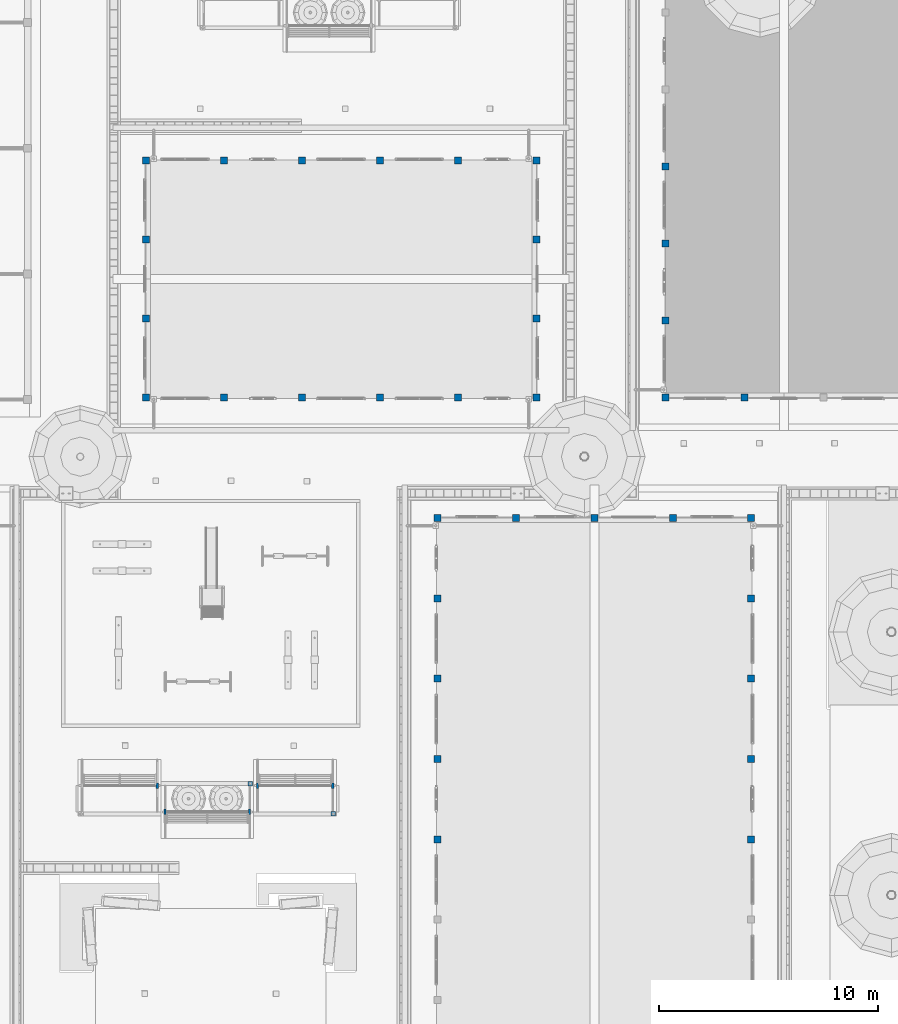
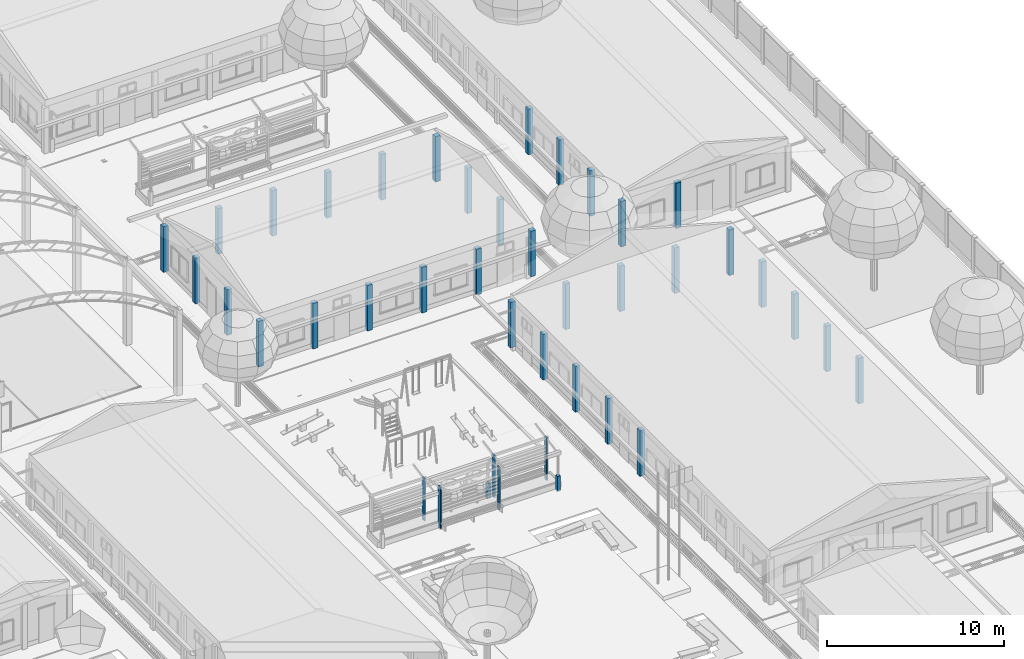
# One storey, part 8 of 166: 48 columns.
"""IFC2X3 building model written with IfcOpenShell, lengths in metres."""

from ifc_helpers import new_model, si_unit, origin, origin_with_axes, place, context, subcontext, project, spatial, faceted_brep, element, save


model = new_model("IFC2X3")

# Units and contexts
model_context = context("Model", 3, precision=1e-05, world=origin_with_axes())
body_context = subcontext(model_context, "Body", "Model", "MODEL_VIEW")
ifc_project = project(units=[si_unit("LENGTHUNIT", "METRE"), si_unit("AREAUNIT", "SQUARE_METRE"), si_unit("VOLUMEUNIT", "CUBIC_METRE"), si_unit("PLANEANGLEUNIT", "RADIAN")], contexts=[model_context])

# Site, building, storey
site_placement = place(None, origin_with_axes())
site = spatial("IfcSite", under=ifc_project, at=site_placement, Name="Predio Los Mangos - Morales, San Martín", CompositionType="ELEMENT")
building_placement = place(site_placement, origin())
building = spatial("IfcBuilding", under=site, at=building_placement, Name="Hogar de Refugio Temporal", CompositionType="ELEMENT")
storey_placement = place(building_placement, origin())
storey = spatial("IfcBuildingStorey", under=building, at=storey_placement, Name="NIVEL 1 (NPT +0.00)", CompositionType="ELEMENT", Elevation=0.0)

# Columns
column_1_placement = place(storey_placement, origin())
element("IfcColumn", 1, at=column_1_placement, inside=storey, Name="E-05_col", ObjectType="Columna", context=body_context, shape_type="Brep", body=[
    faceted_brep([(45.14, 87.04, 0.15), (45.14, 87.36, 0.15), (45.46, 87.36, 0.15), (45.46, 87.04, 0.15), (45.14, 87.04, 3.3), (45.46, 87.04, 3.3), (45.46, 87.36, 3.3), (45.14, 87.36, 3.3)], [[[0, 1, 2, 3]], [[4, 5, 6, 7]], [[0, 3, 5, 4]], [[3, 2, 6, 5]], [[2, 1, 7, 6]], [[1, 0, 4, 7]]]),
])
column_2_placement = place(storey_placement, origin())
element("IfcColumn", 2, at=column_2_placement, inside=storey, Name="E-05_col", ObjectType="Columna", context=body_context, shape_type="Brep", body=[
    faceted_brep([(48.715, 87.04, 0.15), (48.715, 87.36, 0.15), (49.035, 87.36, 0.15), (49.035, 87.04, 0.15), (48.715, 87.04, 3.3), (49.035, 87.04, 3.3), (49.035, 87.36, 3.3), (48.715, 87.36, 3.3)], [[[0, 1, 2, 3]], [[4, 5, 6, 7]], [[0, 3, 5, 4]], [[3, 2, 6, 5]], [[2, 1, 7, 6]], [[1, 0, 4, 7]]]),
])
column_3_placement = place(storey_placement, origin())
element("IfcColumn", 3, at=column_3_placement, inside=storey, Name="E-05_col", ObjectType="Columna", context=body_context, shape_type="Brep", body=[
    faceted_brep([(52.29, 87.04, 0.15), (52.29, 87.36, 0.15), (52.61, 87.36, 0.15), (52.61, 87.04, 0.15), (52.29, 87.04, 3.3), (52.61, 87.04, 3.3), (52.61, 87.36, 3.3), (52.29, 87.36, 3.3)], [[[0, 1, 2, 3]], [[4, 5, 6, 7]], [[0, 3, 5, 4]], [[3, 2, 6, 5]], [[2, 1, 7, 6]], [[1, 0, 4, 7]]]),
])
column_4_placement = place(storey_placement, origin())
element("IfcColumn", 4, at=column_4_placement, inside=storey, Name="E-05_col", ObjectType="Columna", context=body_context, shape_type="Brep", body=[
    faceted_brep([(55.865, 87.04, 0.15), (55.865, 87.36, 0.15), (56.185, 87.36, 0.15), (56.185, 87.04, 0.15), (55.865, 87.04, 3.3), (56.185, 87.04, 3.3), (56.185, 87.36, 3.3), (55.865, 87.36, 3.3)], [[[0, 1, 2, 3]], [[4, 5, 6, 7]], [[0, 3, 5, 4]], [[3, 2, 6, 5]], [[2, 1, 7, 6]], [[1, 0, 4, 7]]]),
])
column_5_placement = place(storey_placement, origin())
element("IfcColumn", 5, at=column_5_placement, inside=storey, Name="E-05_col", ObjectType="Columna", context=body_context, shape_type="Brep", body=[
    faceted_brep([(59.44, 87.04, 0.15), (59.44, 87.36, 0.15), (59.76, 87.36, 0.15), (59.76, 87.04, 0.15), (59.44, 87.04, 3.3), (59.76, 87.04, 3.3), (59.76, 87.36, 3.3), (59.44, 87.36, 3.3)], [[[0, 1, 2, 3]], [[4, 5, 6, 7]], [[0, 3, 5, 4]], [[3, 2, 6, 5]], [[2, 1, 7, 6]], [[1, 0, 4, 7]]]),
])
column_6_placement = place(storey_placement, origin())
element("IfcColumn", 6, at=column_6_placement, inside=storey, Name="E-05_col", ObjectType="Columna", context=body_context, shape_type="Brep", body=[
    faceted_brep([(45.14, 72.39, 0.15), (45.14, 72.71, 0.15), (45.46, 72.71, 0.15), (45.46, 72.39, 0.15), (45.14, 72.39, 3.3), (45.46, 72.39, 3.3), (45.46, 72.71, 3.3), (45.14, 72.71, 3.3)], [[[0, 1, 2, 3]], [[4, 5, 6, 7]], [[0, 3, 5, 4]], [[3, 2, 6, 5]], [[2, 1, 7, 6]], [[1, 0, 4, 7]]]),
])
column_7_placement = place(storey_placement, origin())
element("IfcColumn", 7, at=column_7_placement, inside=storey, Name="E-05_col", ObjectType="Columna", context=body_context, shape_type="Brep", body=[
    faceted_brep([(45.14, 76.0525, 0.15), (45.14, 76.3725, 0.15), (45.46, 76.3725, 0.15), (45.46, 76.0525, 0.15), (45.14, 76.0525, 3.3), (45.46, 76.0525, 3.3), (45.46, 76.3725, 3.3), (45.14, 76.3725, 3.3)], [[[0, 1, 2, 3]], [[4, 5, 6, 7]], [[0, 3, 5, 4]], [[3, 2, 6, 5]], [[2, 1, 7, 6]], [[1, 0, 4, 7]]]),
])
column_8_placement = place(storey_placement, origin())
element("IfcColumn", 8, at=column_8_placement, inside=storey, Name="E-05_col", ObjectType="Columna", context=body_context, shape_type="Brep", body=[
    faceted_brep([(45.14, 79.715, 0.15), (45.14, 80.035, 0.15), (45.46, 80.035, 0.15), (45.46, 79.715, 0.15), (45.14, 79.715, 3.3), (45.46, 79.715, 3.3), (45.46, 80.035, 3.3), (45.14, 80.035, 3.3)], [[[0, 1, 2, 3]], [[4, 5, 6, 7]], [[0, 3, 5, 4]], [[3, 2, 6, 5]], [[2, 1, 7, 6]], [[1, 0, 4, 7]]]),
])
column_9_placement = place(storey_placement, origin())
element("IfcColumn", 9, at=column_9_placement, inside=storey, Name="E-05_col", ObjectType="Columna", context=body_context, shape_type="Brep", body=[
    faceted_brep([(45.14, 83.3775, 0.15), (45.14, 83.6975, 0.15), (45.46, 83.6975, 0.15), (45.46, 83.3775, 0.15), (45.14, 83.3775, 3.3), (45.46, 83.3775, 3.3), (45.46, 83.6975, 3.3), (45.14, 83.6975, 3.3)], [[[0, 1, 2, 3]], [[4, 5, 6, 7]], [[0, 3, 5, 4]], [[3, 2, 6, 5]], [[2, 1, 7, 6]], [[1, 0, 4, 7]]]),
])
column_10_placement = place(storey_placement, origin())
element("IfcColumn", 10, at=column_10_placement, inside=storey, Name="E-05_col", ObjectType="Columna", context=body_context, shape_type="Brep", body=[
    faceted_brep([(45.14, 87.04, 0.15), (45.14, 87.36, 0.15), (45.46, 87.36, 0.15), (45.46, 87.04, 0.15), (45.14, 87.04, 3.3), (45.46, 87.04, 3.3), (45.46, 87.36, 3.3), (45.14, 87.36, 3.3)], [[[0, 1, 2, 3]], [[4, 5, 6, 7]], [[0, 3, 5, 4]], [[3, 2, 6, 5]], [[2, 1, 7, 6]], [[1, 0, 4, 7]]]),
])
column_11_placement = place(storey_placement, origin())
element("IfcColumn", 11, at=column_11_placement, inside=storey, Name="E-05_col", ObjectType="Columna", context=body_context, shape_type="Brep", body=[
    faceted_brep([(59.44, 72.39, 0.15), (59.44, 72.71, 0.15), (59.76, 72.71, 0.15), (59.76, 72.39, 0.15), (59.44, 72.39, 3.3), (59.76, 72.39, 3.3), (59.76, 72.71, 3.3), (59.44, 72.71, 3.3)], [[[0, 1, 2, 3]], [[4, 5, 6, 7]], [[0, 3, 5, 4]], [[3, 2, 6, 5]], [[2, 1, 7, 6]], [[1, 0, 4, 7]]]),
])
column_12_placement = place(storey_placement, origin())
element("IfcColumn", 12, at=column_12_placement, inside=storey, Name="E-05_col", ObjectType="Columna", context=body_context, shape_type="Brep", body=[
    faceted_brep([(59.44, 76.0525, 0.15), (59.44, 76.3725, 0.15), (59.76, 76.3725, 0.15), (59.76, 76.0525, 0.15), (59.44, 76.0525, 3.3), (59.76, 76.0525, 3.3), (59.76, 76.3725, 3.3), (59.44, 76.3725, 3.3)], [[[0, 1, 2, 3]], [[4, 5, 6, 7]], [[0, 3, 5, 4]], [[3, 2, 6, 5]], [[2, 1, 7, 6]], [[1, 0, 4, 7]]]),
])
column_13_placement = place(storey_placement, origin())
element("IfcColumn", 13, at=column_13_placement, inside=storey, Name="E-05_col", ObjectType="Columna", context=body_context, shape_type="Brep", body=[
    faceted_brep([(59.44, 79.715, 0.15), (59.44, 80.035, 0.15), (59.76, 80.035, 0.15), (59.76, 79.715, 0.15), (59.44, 79.715, 3.3), (59.76, 79.715, 3.3), (59.76, 80.035, 3.3), (59.44, 80.035, 3.3)], [[[0, 1, 2, 3]], [[4, 5, 6, 7]], [[0, 3, 5, 4]], [[3, 2, 6, 5]], [[2, 1, 7, 6]], [[1, 0, 4, 7]]]),
])
column_14_placement = place(storey_placement, origin())
element("IfcColumn", 14, at=column_14_placement, inside=storey, Name="E-05_col", ObjectType="Columna", context=body_context, shape_type="Brep", body=[
    faceted_brep([(59.44, 83.3775, 0.15), (59.44, 83.6975, 0.15), (59.76, 83.6975, 0.15), (59.76, 83.3775, 0.15), (59.44, 83.3775, 3.3), (59.76, 83.3775, 3.3), (59.76, 83.6975, 3.3), (59.44, 83.6975, 3.3)], [[[0, 1, 2, 3]], [[4, 5, 6, 7]], [[0, 3, 5, 4]], [[3, 2, 6, 5]], [[2, 1, 7, 6]], [[1, 0, 4, 7]]]),
])
column_15_placement = place(storey_placement, origin())
element("IfcColumn", 15, at=column_15_placement, inside=storey, Name="E-05_col", ObjectType="Columna", context=body_context, shape_type="Brep", body=[
    faceted_brep([(59.44, 87.04, 0.15), (59.44, 87.36, 0.15), (59.76, 87.36, 0.15), (59.76, 87.04, 0.15), (59.44, 87.04, 3.3), (59.76, 87.04, 3.3), (59.76, 87.36, 3.3), (59.44, 87.36, 3.3)], [[[0, 1, 2, 3]], [[4, 5, 6, 7]], [[0, 3, 5, 4]], [[3, 2, 6, 5]], [[2, 1, 7, 6]], [[1, 0, 4, 7]]]),
])
column_16_placement = place(storey_placement, origin())
element("IfcColumn", 16, at=column_16_placement, inside=storey, Name="E-06_col", ObjectType="Columna", context=body_context, shape_type="Brep", body=[
    faceted_brep([(31.84, 92.54, 0.15), (31.84, 92.86, 0.15), (32.16, 92.86, 0.15), (32.16, 92.54, 0.15), (31.84, 92.54, 3.3), (32.16, 92.54, 3.3), (32.16, 92.86, 3.3), (31.84, 92.86, 3.3)], [[[0, 1, 2, 3]], [[4, 5, 6, 7]], [[0, 3, 5, 4]], [[3, 2, 6, 5]], [[2, 1, 7, 6]], [[1, 0, 4, 7]]]),
])
column_17_placement = place(storey_placement, origin())
element("IfcColumn", 17, at=column_17_placement, inside=storey, Name="E-06_col", ObjectType="Columna", context=body_context, shape_type="Brep", body=[
    faceted_brep([(35.4, 92.54, 0.15), (35.4, 92.86, 0.15), (35.72, 92.86, 0.15), (35.72, 92.54, 0.15), (35.4, 92.54, 3.3), (35.72, 92.54, 3.3), (35.72, 92.86, 3.3), (35.4, 92.86, 3.3)], [[[0, 1, 2, 3]], [[4, 5, 6, 7]], [[0, 3, 5, 4]], [[3, 2, 6, 5]], [[2, 1, 7, 6]], [[1, 0, 4, 7]]]),
])
column_18_placement = place(storey_placement, origin())
element("IfcColumn", 18, at=column_18_placement, inside=storey, Name="E-06_col", ObjectType="Columna", context=body_context, shape_type="Brep", body=[
    faceted_brep([(38.96, 92.54, 0.15), (38.96, 92.86, 0.15), (39.28, 92.86, 0.15), (39.28, 92.54, 0.15), (38.96, 92.54, 3.3), (39.28, 92.54, 3.3), (39.28, 92.86, 3.3), (38.96, 92.86, 3.3)], [[[0, 1, 2, 3]], [[4, 5, 6, 7]], [[0, 3, 5, 4]], [[3, 2, 6, 5]], [[2, 1, 7, 6]], [[1, 0, 4, 7]]]),
])
column_19_placement = place(storey_placement, origin())
element("IfcColumn", 19, at=column_19_placement, inside=storey, Name="E-06_col", ObjectType="Columna", context=body_context, shape_type="Brep", body=[
    faceted_brep([(42.52, 92.54, 0.15), (42.52, 92.86, 0.15), (42.84, 92.86, 0.15), (42.84, 92.54, 0.15), (42.52, 92.54, 3.3), (42.84, 92.54, 3.3), (42.84, 92.86, 3.3), (42.52, 92.86, 3.3)], [[[0, 1, 2, 3]], [[4, 5, 6, 7]], [[0, 3, 5, 4]], [[3, 2, 6, 5]], [[2, 1, 7, 6]], [[1, 0, 4, 7]]]),
])
column_20_placement = place(storey_placement, origin())
element("IfcColumn", 20, at=column_20_placement, inside=storey, Name="E-06_col", ObjectType="Columna", context=body_context, shape_type="Brep", body=[
    faceted_brep([(46.08, 92.54, 0.15), (46.08, 92.86, 0.15), (46.4, 92.86, 0.15), (46.4, 92.54, 0.15), (46.08, 92.54, 3.3), (46.4, 92.54, 3.3), (46.4, 92.86, 3.3), (46.08, 92.86, 3.3)], [[[0, 1, 2, 3]], [[4, 5, 6, 7]], [[0, 3, 5, 4]], [[3, 2, 6, 5]], [[2, 1, 7, 6]], [[1, 0, 4, 7]]]),
])
column_21_placement = place(storey_placement, origin())
element("IfcColumn", 21, at=column_21_placement, inside=storey, Name="E-06_col", ObjectType="Columna", context=body_context, shape_type="Brep", body=[
    faceted_brep([(49.64, 92.54, 0.15), (49.64, 92.86, 0.15), (49.96, 92.86, 0.15), (49.96, 92.54, 0.15), (49.64, 92.54, 3.3), (49.96, 92.54, 3.3), (49.96, 92.86, 3.3), (49.64, 92.86, 3.3)], [[[0, 1, 2, 3]], [[4, 5, 6, 7]], [[0, 3, 5, 4]], [[3, 2, 6, 5]], [[2, 1, 7, 6]], [[1, 0, 4, 7]]]),
])
column_22_placement = place(storey_placement, origin())
element("IfcColumn", 22, at=column_22_placement, inside=storey, Name="E-06_col", ObjectType="Columna", context=body_context, shape_type="Brep", body=[
    faceted_brep([(31.84, 103.34, 0.15), (31.84, 103.66, 0.15), (32.16, 103.66, 0.15), (32.16, 103.34, 0.15), (31.84, 103.34, 3.3), (32.16, 103.34, 3.3), (32.16, 103.66, 3.3), (31.84, 103.66, 3.3)], [[[0, 1, 2, 3]], [[4, 5, 6, 7]], [[0, 3, 5, 4]], [[3, 2, 6, 5]], [[2, 1, 7, 6]], [[1, 0, 4, 7]]]),
])
column_23_placement = place(storey_placement, origin())
element("IfcColumn", 23, at=column_23_placement, inside=storey, Name="E-06_col", ObjectType="Columna", context=body_context, shape_type="Brep", body=[
    faceted_brep([(35.4, 103.34, 0.15), (35.4, 103.66, 0.15), (35.72, 103.66, 0.15), (35.72, 103.34, 0.15), (35.4, 103.34, 3.3), (35.72, 103.34, 3.3), (35.72, 103.66, 3.3), (35.4, 103.66, 3.3)], [[[0, 1, 2, 3]], [[4, 5, 6, 7]], [[0, 3, 5, 4]], [[3, 2, 6, 5]], [[2, 1, 7, 6]], [[1, 0, 4, 7]]]),
])
column_24_placement = place(storey_placement, origin())
element("IfcColumn", 24, at=column_24_placement, inside=storey, Name="E-06_col", ObjectType="Columna", context=body_context, shape_type="Brep", body=[
    faceted_brep([(38.96, 103.34, 0.15), (38.96, 103.66, 0.15), (39.28, 103.66, 0.15), (39.28, 103.34, 0.15), (38.96, 103.34, 3.3), (39.28, 103.34, 3.3), (39.28, 103.66, 3.3), (38.96, 103.66, 3.3)], [[[0, 1, 2, 3]], [[4, 5, 6, 7]], [[0, 3, 5, 4]], [[3, 2, 6, 5]], [[2, 1, 7, 6]], [[1, 0, 4, 7]]]),
])
column_25_placement = place(storey_placement, origin())
element("IfcColumn", 25, at=column_25_placement, inside=storey, Name="E-06_col", ObjectType="Columna", context=body_context, shape_type="Brep", body=[
    faceted_brep([(42.52, 103.34, 0.15), (42.52, 103.66, 0.15), (42.84, 103.66, 0.15), (42.84, 103.34, 0.15), (42.52, 103.34, 3.3), (42.84, 103.34, 3.3), (42.84, 103.66, 3.3), (42.52, 103.66, 3.3)], [[[0, 1, 2, 3]], [[4, 5, 6, 7]], [[0, 3, 5, 4]], [[3, 2, 6, 5]], [[2, 1, 7, 6]], [[1, 0, 4, 7]]]),
])
column_26_placement = place(storey_placement, origin())
element("IfcColumn", 26, at=column_26_placement, inside=storey, Name="E-06_col", ObjectType="Columna", context=body_context, shape_type="Brep", body=[
    faceted_brep([(46.08, 103.34, 0.15), (46.08, 103.66, 0.15), (46.4, 103.66, 0.15), (46.4, 103.34, 0.15), (46.08, 103.34, 3.3), (46.4, 103.34, 3.3), (46.4, 103.66, 3.3), (46.08, 103.66, 3.3)], [[[0, 1, 2, 3]], [[4, 5, 6, 7]], [[0, 3, 5, 4]], [[3, 2, 6, 5]], [[2, 1, 7, 6]], [[1, 0, 4, 7]]]),
])
column_27_placement = place(storey_placement, origin())
element("IfcColumn", 27, at=column_27_placement, inside=storey, Name="E-06_col", ObjectType="Columna", context=body_context, shape_type="Brep", body=[
    faceted_brep([(49.64, 103.34, 0.15), (49.64, 103.66, 0.15), (49.96, 103.66, 0.15), (49.96, 103.34, 0.15), (49.64, 103.34, 3.3), (49.96, 103.34, 3.3), (49.96, 103.66, 3.3), (49.64, 103.66, 3.3)], [[[0, 1, 2, 3]], [[4, 5, 6, 7]], [[0, 3, 5, 4]], [[3, 2, 6, 5]], [[2, 1, 7, 6]], [[1, 0, 4, 7]]]),
])
column_28_placement = place(storey_placement, origin())
element("IfcColumn", 28, at=column_28_placement, inside=storey, Name="E-06_col", ObjectType="Columna", context=body_context, shape_type="Brep", body=[
    faceted_brep([(31.84, 92.54, 0.15), (31.84, 92.86, 0.15), (32.16, 92.86, 0.15), (32.16, 92.54, 0.15), (31.84, 92.54, 3.3), (32.16, 92.54, 3.3), (32.16, 92.86, 3.3), (31.84, 92.86, 3.3)], [[[0, 1, 2, 3]], [[4, 5, 6, 7]], [[0, 3, 5, 4]], [[3, 2, 6, 5]], [[2, 1, 7, 6]], [[1, 0, 4, 7]]]),
])
column_29_placement = place(storey_placement, origin())
element("IfcColumn", 29, at=column_29_placement, inside=storey, Name="E-06_col", ObjectType="Columna", context=body_context, shape_type="Brep", body=[
    faceted_brep([(31.84, 96.14, 0.15), (31.84, 96.46, 0.15), (32.16, 96.46, 0.15), (32.16, 96.14, 0.15), (31.84, 96.14, 3.3), (32.16, 96.14, 3.3), (32.16, 96.46, 3.3), (31.84, 96.46, 3.3)], [[[0, 1, 2, 3]], [[4, 5, 6, 7]], [[0, 3, 5, 4]], [[3, 2, 6, 5]], [[2, 1, 7, 6]], [[1, 0, 4, 7]]]),
])
column_30_placement = place(storey_placement, origin())
element("IfcColumn", 30, at=column_30_placement, inside=storey, Name="E-06_col", ObjectType="Columna", context=body_context, shape_type="Brep", body=[
    faceted_brep([(31.84, 99.74, 0.15), (31.84, 100.06, 0.15), (32.16, 100.06, 0.15), (32.16, 99.74, 0.15), (31.84, 99.74, 3.3), (32.16, 99.74, 3.3), (32.16, 100.06, 3.3), (31.84, 100.06, 3.3)], [[[0, 1, 2, 3]], [[4, 5, 6, 7]], [[0, 3, 5, 4]], [[3, 2, 6, 5]], [[2, 1, 7, 6]], [[1, 0, 4, 7]]]),
])
column_31_placement = place(storey_placement, origin())
element("IfcColumn", 31, at=column_31_placement, inside=storey, Name="E-06_col", ObjectType="Columna", context=body_context, shape_type="Brep", body=[
    faceted_brep([(31.84, 103.34, 0.15), (31.84, 103.66, 0.15), (32.16, 103.66, 0.15), (32.16, 103.34, 0.15), (31.84, 103.34, 3.3), (32.16, 103.34, 3.3), (32.16, 103.66, 3.3), (31.84, 103.66, 3.3)], [[[0, 1, 2, 3]], [[4, 5, 6, 7]], [[0, 3, 5, 4]], [[3, 2, 6, 5]], [[2, 1, 7, 6]], [[1, 0, 4, 7]]]),
])
column_32_placement = place(storey_placement, origin())
element("IfcColumn", 32, at=column_32_placement, inside=storey, Name="E-06_col", ObjectType="Columna", context=body_context, shape_type="Brep", body=[
    faceted_brep([(49.64, 92.54, 0.15), (49.64, 92.86, 0.15), (49.96, 92.86, 0.15), (49.96, 92.54, 0.15), (49.64, 92.54, 3.3), (49.96, 92.54, 3.3), (49.96, 92.86, 3.3), (49.64, 92.86, 3.3)], [[[0, 1, 2, 3]], [[4, 5, 6, 7]], [[0, 3, 5, 4]], [[3, 2, 6, 5]], [[2, 1, 7, 6]], [[1, 0, 4, 7]]]),
])
column_33_placement = place(storey_placement, origin())
element("IfcColumn", 33, at=column_33_placement, inside=storey, Name="E-06_col", ObjectType="Columna", context=body_context, shape_type="Brep", body=[
    faceted_brep([(49.64, 96.14, 0.15), (49.64, 96.46, 0.15), (49.96, 96.46, 0.15), (49.96, 96.14, 0.15), (49.64, 96.14, 3.3), (49.96, 96.14, 3.3), (49.96, 96.46, 3.3), (49.64, 96.46, 3.3)], [[[0, 1, 2, 3]], [[4, 5, 6, 7]], [[0, 3, 5, 4]], [[3, 2, 6, 5]], [[2, 1, 7, 6]], [[1, 0, 4, 7]]]),
])
column_34_placement = place(storey_placement, origin())
element("IfcColumn", 34, at=column_34_placement, inside=storey, Name="E-06_col", ObjectType="Columna", context=body_context, shape_type="Brep", body=[
    faceted_brep([(49.64, 99.74, 0.15), (49.64, 100.06, 0.15), (49.96, 100.06, 0.15), (49.96, 99.74, 0.15), (49.64, 99.74, 3.3), (49.96, 99.74, 3.3), (49.96, 100.06, 3.3), (49.64, 100.06, 3.3)], [[[0, 1, 2, 3]], [[4, 5, 6, 7]], [[0, 3, 5, 4]], [[3, 2, 6, 5]], [[2, 1, 7, 6]], [[1, 0, 4, 7]]]),
])
column_35_placement = place(storey_placement, origin())
element("IfcColumn", 35, at=column_35_placement, inside=storey, Name="E-06_col", ObjectType="Columna", context=body_context, shape_type="Brep", body=[
    faceted_brep([(49.64, 103.34, 0.15), (49.64, 103.66, 0.15), (49.96, 103.66, 0.15), (49.96, 103.34, 0.15), (49.64, 103.34, 3.3), (49.96, 103.34, 3.3), (49.96, 103.66, 3.3), (49.64, 103.66, 3.3)], [[[0, 1, 2, 3]], [[4, 5, 6, 7]], [[0, 3, 5, 4]], [[3, 2, 6, 5]], [[2, 1, 7, 6]], [[1, 0, 4, 7]]]),
])
column_36_placement = place(storey_placement, origin())
element("IfcColumn", 36, at=column_36_placement, inside=storey, Name="E-07_col", ObjectType="Columna", context=body_context, shape_type="Brep", body=[
    faceted_brep([(55.54, 92.54, 0.15), (55.54, 92.86, 0.15), (55.86, 92.86, 0.15), (55.86, 92.54, 0.15), (55.54, 92.54, 3.3), (55.86, 92.54, 3.3), (55.86, 92.86, 3.3), (55.54, 92.86, 3.3)], [[[0, 1, 2, 3]], [[4, 5, 6, 7]], [[0, 3, 5, 4]], [[3, 2, 6, 5]], [[2, 1, 7, 6]], [[1, 0, 4, 7]]]),
])
column_37_placement = place(storey_placement, origin())
element("IfcColumn", 37, at=column_37_placement, inside=storey, Name="E-07_col", ObjectType="Columna", context=body_context, shape_type="Brep", body=[
    faceted_brep([(59.14, 92.54, 0.15), (59.14, 92.86, 0.15), (59.46, 92.86, 0.15), (59.46, 92.54, 0.15), (59.14, 92.54, 3.3), (59.46, 92.54, 3.3), (59.46, 92.86, 3.3), (59.14, 92.86, 3.3)], [[[0, 1, 2, 3]], [[4, 5, 6, 7]], [[0, 3, 5, 4]], [[3, 2, 6, 5]], [[2, 1, 7, 6]], [[1, 0, 4, 7]]]),
])
column_38_placement = place(storey_placement, origin())
element("IfcColumn", 38, at=column_38_placement, inside=storey, Name="E-07_col", ObjectType="Columna", context=body_context, shape_type="Brep", body=[
    faceted_brep([(55.54, 92.54, 0.15), (55.54, 92.86, 0.15), (55.86, 92.86, 0.15), (55.86, 92.54, 0.15), (55.54, 92.54, 3.3), (55.86, 92.54, 3.3), (55.86, 92.86, 3.3), (55.54, 92.86, 3.3)], [[[0, 1, 2, 3]], [[4, 5, 6, 7]], [[0, 3, 5, 4]], [[3, 2, 6, 5]], [[2, 1, 7, 6]], [[1, 0, 4, 7]]]),
])
column_39_placement = place(storey_placement, origin())
element("IfcColumn", 39, at=column_39_placement, inside=storey, Name="E-07_col", ObjectType="Columna", context=body_context, shape_type="Brep", body=[
    faceted_brep([(55.54, 96.05, 0.15), (55.54, 96.37, 0.15), (55.86, 96.37, 0.15), (55.86, 96.05, 0.15), (55.54, 96.05, 3.3), (55.86, 96.05, 3.3), (55.86, 96.37, 3.3), (55.54, 96.37, 3.3)], [[[0, 1, 2, 3]], [[4, 5, 6, 7]], [[0, 3, 5, 4]], [[3, 2, 6, 5]], [[2, 1, 7, 6]], [[1, 0, 4, 7]]]),
])
column_40_placement = place(storey_placement, origin())
element("IfcColumn", 40, at=column_40_placement, inside=storey, Name="E-07_col", ObjectType="Columna", context=body_context, shape_type="Brep", body=[
    faceted_brep([(55.54, 99.56, 0.15), (55.54, 99.88, 0.15), (55.86, 99.88, 0.15), (55.86, 99.56, 0.15), (55.54, 99.56, 3.3), (55.86, 99.56, 3.3), (55.86, 99.88, 3.3), (55.54, 99.88, 3.3)], [[[0, 1, 2, 3]], [[4, 5, 6, 7]], [[0, 3, 5, 4]], [[3, 2, 6, 5]], [[2, 1, 7, 6]], [[1, 0, 4, 7]]]),
])
column_41_placement = place(storey_placement, origin())
element("IfcColumn", 41, at=column_41_placement, inside=storey, Name="E-07_col", ObjectType="Columna", context=body_context, shape_type="Brep", body=[
    faceted_brep([(55.54, 103.07, 0.15), (55.54, 103.39, 0.15), (55.86, 103.39, 0.15), (55.86, 103.07, 0.15), (55.54, 103.07, 3.3), (55.86, 103.07, 3.3), (55.86, 103.39, 3.3), (55.54, 103.39, 3.3)], [[[0, 1, 2, 3]], [[4, 5, 6, 7]], [[0, 3, 5, 4]], [[3, 2, 6, 5]], [[2, 1, 7, 6]], [[1, 0, 4, 7]]]),
])
column_42_placement = place(storey_placement, origin())
element("IfcColumn", 42, at=column_42_placement, inside=storey, Name="oc01_columna", ObjectType="Columna", context=body_context, shape_type="Brep", body=[
    faceted_brep([(40.565, 75.125, 0.0), (40.565, 74.875, 0.0), (40.465, 74.875, 0.0), (40.465, 75.125, 0.0), (40.565, 75.125, 2.93), (40.465, 75.125, 2.93), (40.465, 74.875, 2.93), (40.565, 74.875, 2.93)], [[[0, 1, 2, 3]], [[4, 5, 6, 7]], [[0, 3, 5, 4]], [[3, 2, 6, 5]], [[2, 1, 7, 6]], [[1, 0, 4, 7]]]),
])
column_43_placement = place(storey_placement, origin())
element("IfcColumn", 43, at=column_43_placement, inside=storey, Name="oc01_columna", ObjectType="Columna", context=body_context, shape_type="Brep", body=[
    faceted_brep([(37.135, 75.125, 0.0), (37.135, 74.875, 0.0), (37.035, 74.875, 0.0), (37.035, 75.125, 0.0), (37.135, 75.125, 2.93), (37.035, 75.125, 2.93), (37.035, 74.875, 2.93), (37.135, 74.875, 2.93)], [[[0, 1, 2, 3]], [[4, 5, 6, 7]], [[0, 3, 5, 4]], [[3, 2, 6, 5]], [[2, 1, 7, 6]], [[1, 0, 4, 7]]]),
])
column_44_placement = place(storey_placement, origin())
element("IfcColumn", 44, at=column_44_placement, inside=storey, Name="oc01_falsa_columna", ObjectType="Falsa columna", context=body_context, shape_type="Brep", body=[
    faceted_brep([(40.645, 73.81, 0.0), (40.645, 73.61, 0.0), (40.445, 73.61, 0.0), (40.445, 73.81, 0.0), (40.645, 73.81, 1.05), (40.445, 73.81, 1.05), (40.445, 73.61, 1.05), (40.645, 73.61, 1.05)], [[[0, 1, 2, 3]], [[4, 5, 6, 7]], [[0, 3, 5, 4]], [[3, 2, 6, 5]], [[2, 1, 7, 6]], [[1, 0, 4, 7]]]),
])
column_45_placement = place(storey_placement, origin())
element("IfcColumn", 45, at=column_45_placement, inside=storey, Name="oc01_columna", ObjectType="Columna", context=body_context, shape_type="Brep", body=[
    faceted_brep([(36.775, 73.925, 0.0), (36.775, 73.675, 0.0), (36.675, 73.675, 0.0), (36.675, 73.925, 0.0), (36.775, 73.925, 2.93), (36.675, 73.925, 2.93), (36.675, 73.675, 2.93), (36.775, 73.675, 2.93)], [[[0, 1, 2, 3]], [[4, 5, 6, 7]], [[0, 3, 5, 4]], [[3, 2, 6, 5]], [[2, 1, 7, 6]], [[1, 0, 4, 7]]]),
])
column_46_placement = place(storey_placement, origin())
element("IfcColumn", 46, at=column_46_placement, inside=storey, Name="oc01_columna", ObjectType="Columna", context=body_context, shape_type="Brep", body=[
    faceted_brep([(32.925, 73.925, 0.0), (32.925, 73.675, 0.0), (32.825, 73.675, 0.0), (32.825, 73.925, 0.0), (32.925, 73.925, 2.93), (32.825, 73.925, 2.93), (32.825, 73.675, 2.93), (32.925, 73.675, 2.93)], [[[0, 1, 2, 3]], [[4, 5, 6, 7]], [[0, 3, 5, 4]], [[3, 2, 6, 5]], [[2, 1, 7, 6]], [[1, 0, 4, 7]]]),
])
column_47_placement = place(storey_placement, origin())
element("IfcColumn", 47, at=column_47_placement, inside=storey, Name="oc01_falsa_columna", ObjectType="Falsa columna", context=body_context, shape_type="Brep", body=[
    faceted_brep([(36.855, 75.19, 0.0), (36.855, 74.99, 0.0), (36.655, 74.99, 0.0), (36.655, 75.19, 0.0), (36.855, 75.19, 1.05), (36.655, 75.19, 1.05), (36.655, 74.99, 1.05), (36.855, 74.99, 1.05)], [[[0, 1, 2, 3]], [[4, 5, 6, 7]], [[0, 3, 5, 4]], [[3, 2, 6, 5]], [[2, 1, 7, 6]], [[1, 0, 4, 7]]]),
])
column_48_placement = place(storey_placement, origin())
element("IfcColumn", 48, at=column_48_placement, inside=storey, Name="oc01_columna", ObjectType="Columna", context=body_context, shape_type="Brep", body=[
    faceted_brep([(32.565, 75.125, 0.0), (32.565, 74.875, 0.0), (32.465, 74.875, 0.0), (32.465, 75.125, 0.0), (32.565, 75.125, 2.93), (32.465, 75.125, 2.93), (32.465, 74.875, 2.93), (32.565, 74.875, 2.93)], [[[0, 1, 2, 3]], [[4, 5, 6, 7]], [[0, 3, 5, 4]], [[3, 2, 6, 5]], [[2, 1, 7, 6]], [[1, 0, 4, 7]]]),
])

save(model, "model.ifc")
